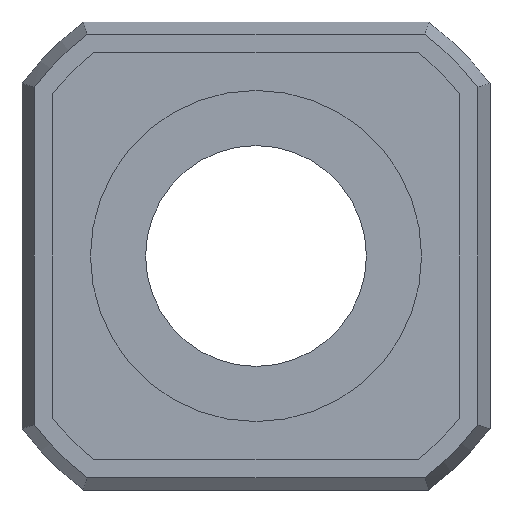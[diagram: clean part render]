
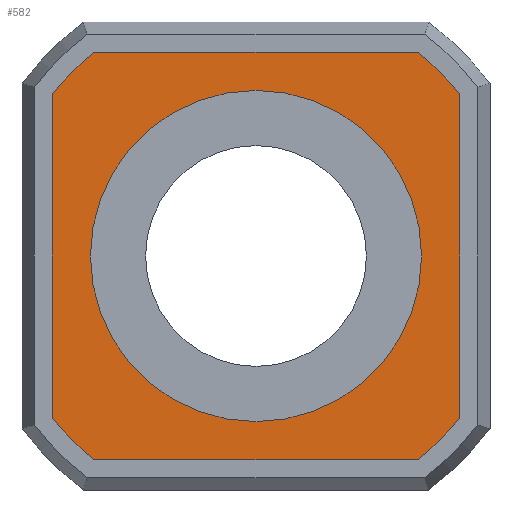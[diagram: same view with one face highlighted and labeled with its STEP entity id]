
A CAD part, front view. The second image highlights one B-rep face of the part: STEP entity #582.
In plain terms, the highlighted planar face has unit normal (0, -1, 0).
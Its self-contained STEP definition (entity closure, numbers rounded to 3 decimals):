
#33=FACE_BOUND('',#127,.T.);
#46=PLANE('',#669);
#88=FACE_OUTER_BOUND('',#126,.T.);
#126=EDGE_LOOP('',(#500,#501,#502,#503,#504,#505,#506,#507));
#127=EDGE_LOOP('',(#508));
#147=LINE('',#917,#183);
#155=LINE('',#953,#191);
#161=LINE('',#981,#197);
#164=LINE('',#994,#200);
#183=VECTOR('',#736,10.);
#191=VECTOR('',#762,10.);
#197=VECTOR('',#784,10.);
#200=VECTOR('',#803,10.);
#216=CIRCLE('',#625,4.25);
#219=CIRCLE('',#631,7.072);
#224=CIRCLE('',#641,7.072);
#228=CIRCLE('',#649,7.072);
#232=CIRCLE('',#658,7.072);
#248=VERTEX_POINT('',#878);
#253=VERTEX_POINT('',#896);
#255=VERTEX_POINT('',#899);
#260=VERTEX_POINT('',#915);
#266=VERTEX_POINT('',#937);
#270=VERTEX_POINT('',#951);
#274=VERTEX_POINT('',#965);
#278=VERTEX_POINT('',#979);
#280=VERTEX_POINT('',#990);
#304=EDGE_CURVE('',#248,#248,#216,.T.);
#310=EDGE_CURVE('',#255,#253,#219,.T.);
#318=EDGE_CURVE('',#253,#260,#147,.T.);
#327=EDGE_CURVE('',#260,#266,#224,.T.);
#333=EDGE_CURVE('',#266,#270,#155,.T.);
#339=EDGE_CURVE('',#270,#274,#228,.T.);
#345=EDGE_CURVE('',#274,#278,#161,.T.);
#351=EDGE_CURVE('',#278,#280,#232,.T.);
#352=EDGE_CURVE('',#280,#255,#164,.T.);
#500=ORIENTED_EDGE('',*,*,#310,.T.);
#501=ORIENTED_EDGE('',*,*,#318,.T.);
#502=ORIENTED_EDGE('',*,*,#327,.T.);
#503=ORIENTED_EDGE('',*,*,#333,.T.);
#504=ORIENTED_EDGE('',*,*,#339,.T.);
#505=ORIENTED_EDGE('',*,*,#345,.T.);
#506=ORIENTED_EDGE('',*,*,#351,.T.);
#507=ORIENTED_EDGE('',*,*,#352,.T.);
#508=ORIENTED_EDGE('',*,*,#304,.T.);
#582=ADVANCED_FACE('',(#88,#33),#46,.T.);
#625=AXIS2_PLACEMENT_3D('',#880,#710,#711);
#631=AXIS2_PLACEMENT_3D('',#900,#723,#724);
#641=AXIS2_PLACEMENT_3D('',#939,#752,#753);
#649=AXIS2_PLACEMENT_3D('',#967,#774,#775);
#658=AXIS2_PLACEMENT_3D('',#992,#799,#800);
#669=AXIS2_PLACEMENT_3D('',#1027,#830,#831);
#710=DIRECTION('center_axis',(0.,1.,0.));
#711=DIRECTION('ref_axis',(-1.,0.,0.));
#723=DIRECTION('center_axis',(0.,-1.,0.));
#724=DIRECTION('ref_axis',(0.805,0.,0.593));
#736=DIRECTION('',(1.,0.,0.));
#752=DIRECTION('center_axis',(0.,-1.,0.));
#753=DIRECTION('ref_axis',(-0.593,0.,0.805));
#762=DIRECTION('',(0.,0.,1.));
#774=DIRECTION('center_axis',(0.,-1.,0.));
#775=DIRECTION('ref_axis',(-1.,0.,0.));
#784=DIRECTION('',(-1.,0.,0.));
#799=DIRECTION('center_axis',(0.,-1.,0.));
#800=DIRECTION('ref_axis',(0.593,0.,-0.805));
#803=DIRECTION('',(0.,0.,-1.));
#830=DIRECTION('center_axis',(0.,-1.,0.));
#831=DIRECTION('ref_axis',(0.,0.,-1.));
#878=CARTESIAN_POINT('',(4.25,-4.,0.));
#880=CARTESIAN_POINT('Origin',(0.,-4.,0.));
#896=CARTESIAN_POINT('',(-4.406,-4.,-5.532));
#899=CARTESIAN_POINT('',(-5.532,-4.,-4.406));
#900=CARTESIAN_POINT('Origin',(0.,-4.,0.));
#915=CARTESIAN_POINT('',(4.406,-4.,-5.532));
#917=CARTESIAN_POINT('',(2.343,-4.,-5.532));
#937=CARTESIAN_POINT('',(5.532,-4.,-4.406));
#939=CARTESIAN_POINT('Origin',(0.,-4.,0.));
#951=CARTESIAN_POINT('',(5.532,-4.,4.406));
#953=CARTESIAN_POINT('',(5.532,-4.,2.343));
#965=CARTESIAN_POINT('',(4.406,-4.,5.532));
#967=CARTESIAN_POINT('Origin',(0.,-4.,0.));
#979=CARTESIAN_POINT('',(-4.406,-4.,5.532));
#981=CARTESIAN_POINT('',(-2.343,-4.,5.532));
#990=CARTESIAN_POINT('',(-5.532,-4.,4.406));
#992=CARTESIAN_POINT('Origin',(0.,-4.,0.));
#994=CARTESIAN_POINT('',(-5.532,-4.,-2.343));
#1027=CARTESIAN_POINT('Origin',(0.,-4.,0.));
